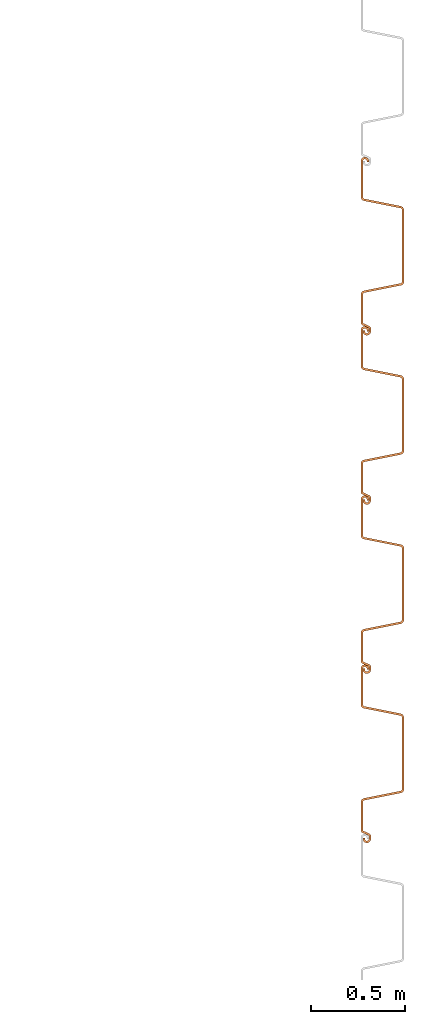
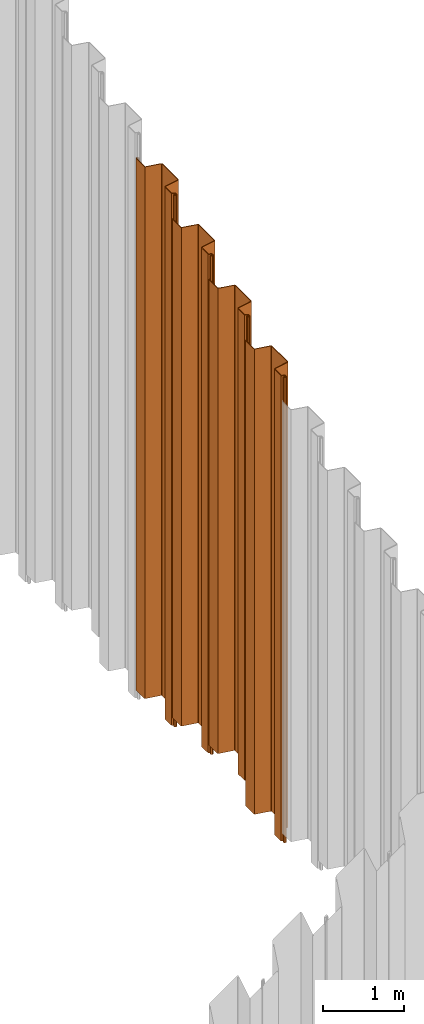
# One storey, part 10 of 12: 4 proxies.
"""IFC2X3 building model written with IfcOpenShell, lengths in millimetres."""

import ifcopenshell
import ifcopenshell.guid

model = None  # the IFC model being written
_history = None  # IfcOwnerHistory: only IFC2X3 demands one
_inside = {}  # id of a spatial element -> (the spatial element, [elements in it])
_under = {}  # id of a project, library or spatial element -> (it, [spatial elements below it])
_declared = {}  # id of a project -> (the project, [libraries it declares])
_typed = {}  # id of a type object -> (the type object, [elements of that type])
_made_of = {}  # id of a material, layer set ... -> (it, [elements and type objects made of it])


def new_model(schema):
    """Start an empty IFC model of exactly this schema.

    Asked for "IFC4X3", IfcOpenShell would pick the latest addendum, in which some entities
    have other attributes; the version numbers below select the first issue.
    IFC2X3 requires an IfcOwnerHistory on every rooted entity: one is made here for all.
    """
    global model, _history
    if schema == "IFC4X3":
        model = ifcopenshell.file(schema_version=(4, 3, 0, 0))
    else:
        model = ifcopenshell.file(schema=schema)
    _inside.clear()
    _under.clear()
    _declared.clear()
    _typed.clear()
    _made_of.clear()
    _history = None
    if model.schema == "IFC2X3":
        org = make("IfcOrganization", Name="unknown")
        user = make(
            "IfcPersonAndOrganization",
            ThePerson=make("IfcPerson", FamilyName="unknown"),
            TheOrganization=org,
        )
        app = make(
            "IfcApplication",
            ApplicationDeveloper=org,
            Version="unknown",
            ApplicationFullName="unknown",
            ApplicationIdentifier="unknown",
        )
        _history = make(
            "IfcOwnerHistory",
            OwningUser=user,
            OwningApplication=app,
            ChangeAction="ADDED",
            CreationDate=0,
        )
    return model


def make(cls, **values):
    """One entity of the class cls with the attributes given. An attribute that is None is left unset."""
    return model.create_entity(
        cls, **{name: value for name, value in values.items() if value is not None}
    )


def entity(cls, *values):
    """Any entity or typed value of the class cls, its attributes in the order of the schema. None: left unset."""
    e = model.create_entity(cls)
    for i, value in enumerate(values):
        if value is not None:
            e[i] = value
    return e


def rooted(cls, **values):
    """An entity with a GlobalId (a new one), such as an element, a storey or a relation."""
    return make(cls, GlobalId=ifcopenshell.guid.new(), OwnerHistory=_history, **values)


def si_unit(unit_type, name, prefix=None):
    """IfcSIUnit, for example si_unit("LENGTHUNIT", "METRE", prefix="MILLI")."""
    return make("IfcSIUnit", UnitType=unit_type, Prefix=prefix, Name=name)


def converted_unit(unit_type, name, factor, base, dimensions=None, offset=None):
    """IfcConversionBasedUnit, such as the inch: factor (a typed value) times the base unit."""
    return make(
        "IfcConversionBasedUnit"
        if offset is None
        else "IfcConversionBasedUnitWithOffset",
        ConversionOffset=offset,
        Dimensions=None
        if dimensions is None
        else entity("IfcDimensionalExponents", *dimensions),
        UnitType=unit_type,
        Name=name,
        ConversionFactor=make(
            "IfcMeasureWithUnit", ValueComponent=factor, UnitComponent=base
        ),
    )


def derived_unit(unit_type, elements):
    """IfcDerivedUnit: a product of units, each with its exponent."""
    return make(
        "IfcDerivedUnit",
        Elements=[
            make("IfcDerivedUnitElement", Unit=unit, Exponent=power)
            for unit, power in elements
        ],
        UnitType=unit_type,
    )


def assignment(units):
    """IfcUnitAssignment: the units of a project."""
    return None if units is None else make("IfcUnitAssignment", Units=units)


def point(xyz):
    """IfcCartesianPoint."""
    return None if xyz is None else make("IfcCartesianPoint", Coordinates=xyz)


def direction(xyz):
    """IfcDirection."""
    return None if xyz is None else make("IfcDirection", DirectionRatios=xyz)


def frame(location, z_axis=None, x_axis=None):
    """IfcAxis2Placement3D, a coordinate frame: its origin and axes. An axis left out is left unset."""
    return make(
        "IfcAxis2Placement3D",
        Location=point(location),
        Axis=direction(z_axis),
        RefDirection=direction(x_axis),
    )


def frame_2d(location, x_axis=None):
    """IfcAxis2Placement2D, a coordinate frame in the plane: its origin and x axis."""
    return make(
        "IfcAxis2Placement2D", Location=point(location), RefDirection=direction(x_axis)
    )


def origin():
    """The frame at (0, 0, 0) with its axes left unset."""
    return frame((0.0, 0.0, 0.0))


def place(relative_to, where):
    """IfcLocalPlacement: puts the frame where relative to a parent placement (None: the world)."""
    return make(
        "IfcLocalPlacement", PlacementRelTo=relative_to, RelativePlacement=where
    )


def context(
    kind, dimensions, precision=None, world=None, true_north=None, identifier=None
):
    """IfcGeometricRepresentationContext, for example the 3D "Model" context."""
    return make(
        "IfcGeometricRepresentationContext",
        ContextIdentifier=identifier,
        ContextType=kind,
        CoordinateSpaceDimension=dimensions,
        Precision=precision,
        WorldCoordinateSystem=world,
        TrueNorth=true_north,
    )


def subcontext(parent, identifier, kind, view, scale=None):
    """IfcGeometricRepresentationSubContext, for example "Body" below "Model"."""
    return make(
        "IfcGeometricRepresentationSubContext",
        ContextIdentifier=identifier,
        ContextType=kind,
        ParentContext=parent,
        TargetScale=scale,
        TargetView=view,
    )


def project(units=None, contexts=None):
    """IfcProject with its units and contexts."""
    return rooted(
        "IfcProject",
        Name="project",
        RepresentationContexts=contexts,
        UnitsInContext=assignment(units),
    )


def spatial(cls, under=None, at=None, **own):
    """A site, building, storey or space (cls), placed at a placement, below another one or the project."""
    s = rooted(cls, ObjectPlacement=at, **own)
    if under is not None:
        _under.setdefault(under.id(), (under, []))[1].append(s)
    return s


def polyline(points):
    """IfcPolyline through the points."""
    return make("IfcPolyline", Points=[point(p) for p in points])


def circle_curve(where, radius):
    """IfcCircle in the frame where."""
    return make("IfcCircle", Position=where, Radius=radius)


def parameter(value):
    """IfcParameterValue: where a trimmed curve begins or ends, as a parameter of its basis curve."""
    return model.create_entity("IfcParameterValue", value)


def trimmed(basis, trim1, trim2, sense, master):
    """IfcTrimmedCurve: the piece of a basis curve between two trims."""
    return make(
        "IfcTrimmedCurve",
        BasisCurve=basis,
        Trim1=trim1,
        Trim2=trim2,
        SenseAgreement=sense,
        MasterRepresentation=master,
    )


def segment(curve, same_sense, transition):
    """IfcCompositeCurveSegment."""
    return make(
        "IfcCompositeCurveSegment",
        Transition=transition,
        SameSense=same_sense,
        ParentCurve=curve,
    )


def composite_curve(segments, self_intersect=None):
    """IfcCompositeCurve: segments joined end to end."""
    return make("IfcCompositeCurve", Segments=segments, SelfIntersect=self_intersect)


def outline(outer, holes=None, kind="AREA"):
    """IfcArbitraryClosedProfileDef: a profile drawn as a closed curve; with holes, ...WithVoids."""
    if holes is None:
        return make("IfcArbitraryClosedProfileDef", ProfileType=kind, OuterCurve=outer)
    return make(
        "IfcArbitraryProfileDefWithVoids",
        ProfileType=kind,
        OuterCurve=outer,
        InnerCurves=holes,
    )


def extrude(swept, where, along, depth):
    """IfcExtrudedAreaSolid: the profile swept, set in the frame where, extruded along a direction by depth."""
    return make(
        "IfcExtrudedAreaSolid",
        SweptArea=swept,
        Position=where,
        ExtrudedDirection=direction(along),
        Depth=depth,
    )


def shape(context_of_items, identifier, shape_type, items):
    """IfcShapeRepresentation: the items that make up one representation, for example the "Body"."""
    return make(
        "IfcShapeRepresentation",
        ContextOfItems=context_of_items,
        RepresentationIdentifier=identifier,
        RepresentationType=shape_type,
        Items=items,
    )


def source(mapping_origin, context_of_items, identifier, shape_type, items):
    """IfcRepresentationMap: a shape defined once, which mapped items show again and again."""
    return make(
        "IfcRepresentationMap",
        MappingOrigin=mapping_origin,
        MappedRepresentation=shape(context_of_items, identifier, shape_type, items),
    )


def transform(
    local_origin,
    x_axis=None,
    y_axis=None,
    z_axis=None,
    scale=None,
    scale2=None,
    scale3=None,
    uniform=True,
):
    """IfcCartesianTransformationOperator3D, or its non-uniform kind. x_axis, y_axis, z_axis: its Axis1, 2, 3."""
    if uniform:
        return make(
            "IfcCartesianTransformationOperator3D",
            Axis1=direction(x_axis),
            Axis2=direction(y_axis),
            LocalOrigin=point(local_origin),
            Scale=scale,
            Axis3=direction(z_axis),
        )
    return make(
        "IfcCartesianTransformationOperator3DnonUniform",
        Axis1=direction(x_axis),
        Axis2=direction(y_axis),
        LocalOrigin=point(local_origin),
        Scale=scale,
        Axis3=direction(z_axis),
        Scale2=scale2,
        Scale3=scale3,
    )


def mapped(mapping_source, mapping_target):
    """IfcMappedItem: shows the shape of a source again, moved by a transform."""
    return make(
        "IfcMappedItem", MappingSource=mapping_source, MappingTarget=mapping_target
    )


def material(Name=None, Category=None):
    """IfcMaterial."""
    return make("IfcMaterial", Name=Name, Category=Category)


def made_of(thing, what):
    """Note that an element or type object is made of a material, layer set ...; save() writes the relation."""
    if what is not None:
        _made_of.setdefault(what.id(), (what, []))[1].append(thing)
    return thing


def type_object(cls, material=None, **own):
    """A type object (cls), such as IfcWallType, which elements share."""
    return made_of(rooted(cls, **own), material)


def type_shapes(of_type, sources):
    """Give a type object the sources (RepresentationMaps) that its elements show as mapped items."""
    of_type.RepresentationMaps = sources


def element(
    cls,
    number,
    at=None,
    inside=None,
    cuts=None,
    type_object=None,
    material=None,
    context=None,
    identifier="Body",
    shape_type=None,
    held_by="IfcProductDefinitionShape",
    body=None,
    shapes=None,
    **own,
):
    """One element of the class cls, such as IfcWall. Its Tag is "e" and its number.

    at: its placement. inside: the storey or other place that contains it. cuts: it is an
    opening in that element (IfcRelVoidsElement). A single representation is given by context,
    identifier, shape_type and body (its items); several are given by shapes. held_by: the class
    of the entity that holds the representations. save() writes the other relations.
    """
    e = rooted(cls, Tag="e%d" % number, ObjectPlacement=at, **own)
    if body is not None:
        shapes = [shape(context, identifier, shape_type, body)]
    if shapes is not None:
        e.Representation = make(held_by, Representations=shapes)
    if inside is not None:
        _inside.setdefault(inside.id(), (inside, []))[1].append(e)
    if cuts is not None:
        rooted(
            "IfcRelVoidsElement", RelatingBuildingElement=cuts, RelatedOpeningElement=e
        )
    if type_object is not None:
        _typed.setdefault(type_object.id(), (type_object, []))[1].append(e)
    return made_of(e, material)


def aggregate(whole, parts):
    """IfcRelAggregates: a whole, such as a stair, and the parts it consists of."""
    return rooted("IfcRelAggregates", RelatingObject=whole, RelatedObjects=parts)


def save(model, path):
    """Write the relations noted so far, then the file.

    IfcRelAggregates (storeys below a building ...), IfcRelContainedInSpatialStructure (elements
    in a storey), IfcRelDefinesByType, IfcRelAssociatesMaterial and IfcRelDeclares: one each for
    every whole, place, type object, material and project.
    """
    for whole, parts in _under.values():
        aggregate(whole, parts)
    for where, things in _inside.values():
        rooted(
            "IfcRelContainedInSpatialStructure",
            RelatedElements=things,
            RelatingStructure=where,
        )
    for kind, things in _typed.values():
        rooted("IfcRelDefinesByType", RelatedObjects=things, RelatingType=kind)
    for what, things in _made_of.values():
        rooted("IfcRelAssociatesMaterial", RelatedObjects=things, RelatingMaterial=what)
    for by, libraries in _declared.values():
        rooted("IfcRelDeclares", RelatingContext=by, RelatedDefinitions=libraries)
    model.write(path)


model = new_model("IFC2X3")

# Units and contexts
model_context = context("Model", 3, precision=0.01, world=origin(), true_north=direction((6.12303176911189e-17, 1.0)))
body_context = subcontext(model_context, "Body", "Model", "MODEL_VIEW")
ifc_project = project(units=[si_unit("LENGTHUNIT", "METRE", prefix="MILLI"), si_unit("AREAUNIT", "SQUARE_METRE"), si_unit("VOLUMEUNIT", "CUBIC_METRE"), converted_unit("PLANEANGLEUNIT", "DEGREE", entity("IfcRatioMeasure", 0.0174532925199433), si_unit("PLANEANGLEUNIT", "RADIAN"), dimensions=[0, 0, 0, 0, 0, 0, 0]), si_unit("MASSUNIT", "GRAM", prefix="KILO"), derived_unit("MASSDENSITYUNIT", [(si_unit("MASSUNIT", "GRAM", prefix="KILO"), 1), (si_unit("LENGTHUNIT", "METRE"), -3)]), derived_unit("MOMENTOFINERTIAUNIT", [(si_unit("LENGTHUNIT", "METRE"), 4)]), si_unit("TIMEUNIT", "SECOND"), si_unit("FREQUENCYUNIT", "HERTZ"), si_unit("THERMODYNAMICTEMPERATUREUNIT", "DEGREE_CELSIUS"), derived_unit("THERMALTRANSMITTANCEUNIT", [(si_unit("MASSUNIT", "GRAM", prefix="KILO"), 1), (si_unit("THERMODYNAMICTEMPERATUREUNIT", "KELVIN"), -1), (si_unit("TIMEUNIT", "SECOND"), -3)]), derived_unit("VOLUMETRICFLOWRATEUNIT", [(si_unit("LENGTHUNIT", "METRE"), 3), (si_unit("TIMEUNIT", "SECOND"), -1)]), si_unit("ELECTRICCURRENTUNIT", "AMPERE"), si_unit("ELECTRICVOLTAGEUNIT", "VOLT"), si_unit("POWERUNIT", "WATT"), si_unit("FORCEUNIT", "NEWTON", prefix="KILO"), si_unit("ILLUMINANCEUNIT", "LUX"), si_unit("LUMINOUSFLUXUNIT", "LUMEN"), si_unit("LUMINOUSINTENSITYUNIT", "CANDELA"), derived_unit("USERDEFINED", [(si_unit("MASSUNIT", "GRAM", prefix="KILO"), -1), (si_unit("LENGTHUNIT", "METRE"), -2), (si_unit("TIMEUNIT", "SECOND"), 3), (si_unit("LUMINOUSFLUXUNIT", "LUMEN"), 1)]), derived_unit("LINEARVELOCITYUNIT", [(si_unit("LENGTHUNIT", "METRE"), 1), (si_unit("TIMEUNIT", "SECOND"), -1)]), si_unit("PRESSUREUNIT", "PASCAL"), derived_unit("USERDEFINED", [(si_unit("LENGTHUNIT", "METRE"), -2), (si_unit("MASSUNIT", "GRAM", prefix="KILO"), 1), (si_unit("TIMEUNIT", "SECOND"), -2)]), derived_unit("LINEARFORCEUNIT", [(si_unit("MASSUNIT", "GRAM", prefix="KILO"), 1), (si_unit("LENGTHUNIT", "METRE"), 1), (si_unit("TIMEUNIT", "SECOND"), -2), (si_unit("LENGTHUNIT", "METRE"), -1)]), derived_unit("PLANARFORCEUNIT", [(si_unit("MASSUNIT", "GRAM", prefix="KILO"), 1), (si_unit("LENGTHUNIT", "METRE"), 1), (si_unit("TIMEUNIT", "SECOND"), -2), (si_unit("LENGTHUNIT", "METRE"), -2)])], contexts=[model_context])

# Site, building, storey
site_placement = place(None, origin())
site = spatial("IfcSite", under=ifc_project, at=site_placement, Name="Default", CompositionType="ELEMENT")
building_placement = place(site_placement, origin())
building = spatial("IfcBuilding", under=site, at=building_placement, CompositionType="ELEMENT")
storey_placement = place(building_placement, frame((0.0, 0.0, 10600.0)))
storey = spatial("IfcBuildingStorey", under=building, at=storey_placement, Name="AP+10.600", CompositionType="ELEMENT", Elevation=10600.0)

# Proxies
ifc_material = material(Name="<Unnamed>")
building_element_proxy_type_1 = type_object("IfcBuildingElementProxyType", Name="鋼矢板10H型:鋼矢板10H型", PredefinedType="NOTDEFINED", material=ifc_material)
shared_shape_1 = source(origin(), body_context, "Body", "SweptSolid", [
    extrude(outline(composite_curve([segment(trimmed(circle_curve(frame_2d((85.3662976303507, 306.644432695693), x_axis=(0.422618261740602, 0.906307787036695)), 13.885714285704), [parameter(24.9999999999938)], [parameter(90.0000000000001)], True, "PARAMETER"), True, "CONTINUOUS"), segment(polyline([(72.7815666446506, 312.512789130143), (9.8129512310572, 177.476157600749)]), True, "CONTINUOUS"), segment(trimmed(circle_curve(frame_2d((29.3891994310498, 168.347603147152), x_axis=(0.422618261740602, 0.906307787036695)), 21.6), [parameter(90.0000000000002)], [parameter(168.69006752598)], True, "PARAMETER"), True, "CONTINUOUS"), segment(polyline([(16.598697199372, 150.941769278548), (175.329723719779, 34.2998683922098)]), True, "CONTINUOUS"), segment(trimmed(circle_curve(frame_2d((168.93447260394, 25.596951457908), x_axis=(0.422618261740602, 0.906307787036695)), 10.7999999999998), [parameter(270.0)], [parameter(348.690067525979)], True, "PARAMETER"), False, "CONTINUOUS"), segment(polyline([(178.722596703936, 21.0326742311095), (18.2974003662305, -323.000269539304)]), True, "CONTINUOUS"), segment(trimmed(circle_curve(frame_2d((8.50927626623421, -318.435992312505), x_axis=(0.422618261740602, 0.906307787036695)), 10.8), [parameter(191.30993247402)], [parameter(269.999999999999)], True, "PARAMETER"), False, "CONTINUOUS"), segment(polyline([(5.95324328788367, -328.929166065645), (-185.429973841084, -282.310113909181)]), True, "CONTINUOUS"), segment(trimmed(circle_curve(frame_2d((-190.542039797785, -303.296461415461), x_axis=(0.422618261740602, 0.906307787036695)), 21.6000000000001), [parameter(11.3099324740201)], [parameter(90.0000000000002)], True, "PARAMETER"), True, "CONTINUOUS"), segment(polyline([(-210.118287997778, -294.167906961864), (-290.330886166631, -466.184378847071)]), True, "CONTINUOUS"), segment(trimmed(circle_curve(frame_2d((-270.754637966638, -475.312933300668), x_axis=(0.422618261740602, 0.906307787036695)), 21.6), [parameter(90.0000000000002)], [parameter(269.999999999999)], True, "PARAMETER"), True, "CONTINUOUS"), segment(polyline([(-251.178389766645, -484.441487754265), (-249.065298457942, -479.909948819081)]), True, "CONTINUOUS"), segment(polyline([(-249.065298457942, -479.909948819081), (-258.853422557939, -475.345671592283)]), True, "CONTINUOUS"), segment(polyline([(-258.853422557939, -475.345671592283), (-260.966513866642, -479.877210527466)]), True, "CONTINUOUS"), segment(trimmed(circle_curve(frame_2d((-270.754637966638, -475.312933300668), x_axis=(0.422618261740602, 0.906307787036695)), 10.8), [parameter(90.0000000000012)], [parameter(270.0)], True, "PARAMETER"), False, "CONTINUOUS"), segment(polyline([(-280.542762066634, -470.748656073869), (-200.330163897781, -298.732184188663)]), True, "CONTINUOUS"), segment(trimmed(circle_curve(frame_2d((-190.542039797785, -303.296461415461), x_axis=(0.422618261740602, 0.906307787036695)), 10.8), [parameter(11.3099324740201)], [parameter(89.9999999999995)], True, "PARAMETER"), False, "CONTINUOUS"), segment(polyline([(-187.986006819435, -292.803287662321), (3.39721030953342, -339.422339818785)]), True, "CONTINUOUS"), segment(trimmed(circle_curve(frame_2d((8.50927626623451, -318.435992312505), x_axis=(0.422618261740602, 0.906307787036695)), 21.6), [parameter(191.30993247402)], [parameter(270.0)], True, "PARAMETER"), True, "CONTINUOUS"), segment(polyline([(28.0855244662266, -327.564546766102), (188.510720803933, 16.4683970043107)]), True, "CONTINUOUS"), segment(trimmed(circle_curve(frame_2d((168.93447260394, 25.5969514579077), x_axis=(0.422618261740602, 0.906307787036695)), 21.6), [parameter(270.0)], [parameter(348.69006752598)], True, "PARAMETER"), True, "CONTINUOUS"), segment(polyline([(181.724974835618, 43.0027853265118), (22.9939483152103, 159.644686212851)]), True, "CONTINUOUS"), segment(trimmed(circle_curve(frame_2d((29.3891994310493, 168.347603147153), x_axis=(0.422618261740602, 0.906307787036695)), 10.7999999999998), [parameter(89.9999999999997)], [parameter(168.690067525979)], True, "PARAMETER"), False, "CONTINUOUS"), segment(polyline([(19.6010753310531, 172.911880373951), (82.5696907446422, 307.948511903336)]), True, "CONTINUOUS"), segment(trimmed(circle_curve(frame_2d((85.3662976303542, 306.64443269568), x_axis=(0.422618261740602, 0.906307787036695)), 3.08571428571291), [parameter(25.0000000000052)], [parameter(90.0000000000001)], True, "PARAMETER"), False, "CONTINUOUS"), segment(polyline([(85.3662976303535, 309.730146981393), (122.220231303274, 309.730146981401)]), True, "CONTINUOUS"), segment(trimmed(circle_curve(frame_2d((122.220231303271, 323.615861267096), x_axis=(0.422618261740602, 0.906307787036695)), 13.8857142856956), [parameter(205.000000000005)], [parameter(270.0)], True, "PARAMETER"), True, "CONTINUOUS"), segment(polyline([(134.804962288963, 317.747504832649), (141.079261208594, 331.202782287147)]), True, "CONTINUOUS"), segment(trimmed(circle_curve(frame_2d((121.503013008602, 340.331336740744), x_axis=(0.422618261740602, 0.906307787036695)), 21.6), [parameter(270.0)], [parameter(90.0000000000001)], True, "PARAMETER"), True, "CONTINUOUS"), segment(polyline([(101.926764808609, 349.459891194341), (99.8136734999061, 344.928352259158)]), True, "CONTINUOUS"), segment(polyline([(99.8136734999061, 344.928352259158), (109.601797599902, 340.364075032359)]), True, "CONTINUOUS"), segment(polyline([(109.601797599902, 340.364075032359), (111.714888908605, 344.895613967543)]), True, "CONTINUOUS"), segment(trimmed(circle_curve(frame_2d((121.503013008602, 340.331336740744), x_axis=(0.422618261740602, 0.906307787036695)), 10.8), [parameter(270.0)], [parameter(89.9999999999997)], True, "PARAMETER"), False, "CONTINUOUS"), segment(polyline([(131.291137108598, 335.767059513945), (125.01683818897, 322.311782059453)]), True, "CONTINUOUS"), segment(trimmed(circle_curve(frame_2d((122.220231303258, 323.615861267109), x_axis=(0.422618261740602, 0.906307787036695)), 3.08571428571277), [parameter(204.999999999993)], [parameter(270.0)], True, "PARAMETER"), False, "CONTINUOUS"), segment(polyline([(122.220231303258, 320.530146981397), (85.3662976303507, 320.530146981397)]), True, "CONTINUOUS")], self_intersect=False)), frame((95.205667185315, -48.8888888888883, -7000.0), z_axis=(0.0, 0.0, -1.0), x_axis=(0.4226182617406, 0.906307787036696, 0.0)), (0.0, 0.0, -1.0), 7000.0),
])
type_shapes(building_element_proxy_type_1, [shared_shape_1])
for number, where, z_axis, x_axis in (
    (1, (89754.0, -8495.0, 2222.55268431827), (0.0, 0.0, 1.0), (0.0, -1.0, 0.0)),
    (2, (89754.0, -9395.0, 1854.65268431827), (0.0, 0.0, 1.0), (0.0, -1.0, 0.0)),
):
    element("IfcBuildingElementProxy", number, at=place(storey_placement, frame(where, z_axis=z_axis, x_axis=x_axis)), inside=storey, type_object=building_element_proxy_type_1, material=ifc_material, Name="鋼矢板10H型:鋼矢板10H型", ObjectType="鋼矢板10H型:鋼矢板10H型", context=body_context, shape_type="MappedRepresentation", body=[
        mapped(shared_shape_1, transform((0.0, 0.0, 0.0), scale=1.0)),
    ])
building_element_proxy_type_2 = type_object("IfcBuildingElementProxyType", Name="鋼矢板10H型:鋼矢板10H型", PredefinedType="NOTDEFINED", material=ifc_material)
shared_shape_2 = source(origin(), body_context, "Body", "SweptSolid", [
    extrude(outline(composite_curve([segment(trimmed(circle_curve(frame_2d((85.3662976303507, 306.644432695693), x_axis=(0.422618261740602, 0.906307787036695)), 13.885714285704), [parameter(24.9999999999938)], [parameter(90.0000000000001)], True, "PARAMETER"), True, "CONTINUOUS"), segment(polyline([(72.7815666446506, 312.512789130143), (9.8129512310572, 177.476157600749)]), True, "CONTINUOUS"), segment(trimmed(circle_curve(frame_2d((29.3891994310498, 168.347603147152), x_axis=(0.422618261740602, 0.906307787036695)), 21.6), [parameter(90.0000000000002)], [parameter(168.69006752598)], True, "PARAMETER"), True, "CONTINUOUS"), segment(polyline([(16.598697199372, 150.941769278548), (175.329723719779, 34.2998683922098)]), True, "CONTINUOUS"), segment(trimmed(circle_curve(frame_2d((168.93447260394, 25.596951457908), x_axis=(0.422618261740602, 0.906307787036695)), 10.7999999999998), [parameter(270.0)], [parameter(348.690067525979)], True, "PARAMETER"), False, "CONTINUOUS"), segment(polyline([(178.722596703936, 21.0326742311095), (18.2974003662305, -323.000269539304)]), True, "CONTINUOUS"), segment(trimmed(circle_curve(frame_2d((8.50927626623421, -318.435992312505), x_axis=(0.422618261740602, 0.906307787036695)), 10.8), [parameter(191.30993247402)], [parameter(269.999999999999)], True, "PARAMETER"), False, "CONTINUOUS"), segment(polyline([(5.95324328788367, -328.929166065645), (-185.429973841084, -282.310113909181)]), True, "CONTINUOUS"), segment(trimmed(circle_curve(frame_2d((-190.542039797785, -303.296461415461), x_axis=(0.422618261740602, 0.906307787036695)), 21.6000000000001), [parameter(11.3099324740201)], [parameter(90.0000000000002)], True, "PARAMETER"), True, "CONTINUOUS"), segment(polyline([(-210.118287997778, -294.167906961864), (-290.330886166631, -466.184378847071)]), True, "CONTINUOUS"), segment(trimmed(circle_curve(frame_2d((-270.754637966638, -475.312933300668), x_axis=(0.422618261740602, 0.906307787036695)), 21.6), [parameter(90.0000000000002)], [parameter(269.999999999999)], True, "PARAMETER"), True, "CONTINUOUS"), segment(polyline([(-251.178389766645, -484.441487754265), (-249.065298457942, -479.909948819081)]), True, "CONTINUOUS"), segment(polyline([(-249.065298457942, -479.909948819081), (-258.853422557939, -475.345671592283)]), True, "CONTINUOUS"), segment(polyline([(-258.853422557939, -475.345671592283), (-260.966513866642, -479.877210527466)]), True, "CONTINUOUS"), segment(trimmed(circle_curve(frame_2d((-270.754637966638, -475.312933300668), x_axis=(0.422618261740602, 0.906307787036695)), 10.8), [parameter(90.0000000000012)], [parameter(270.0)], True, "PARAMETER"), False, "CONTINUOUS"), segment(polyline([(-280.542762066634, -470.748656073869), (-200.330163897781, -298.732184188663)]), True, "CONTINUOUS"), segment(trimmed(circle_curve(frame_2d((-190.542039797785, -303.296461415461), x_axis=(0.422618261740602, 0.906307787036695)), 10.8), [parameter(11.3099324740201)], [parameter(89.9999999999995)], True, "PARAMETER"), False, "CONTINUOUS"), segment(polyline([(-187.986006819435, -292.803287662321), (3.39721030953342, -339.422339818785)]), True, "CONTINUOUS"), segment(trimmed(circle_curve(frame_2d((8.50927626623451, -318.435992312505), x_axis=(0.422618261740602, 0.906307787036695)), 21.6), [parameter(191.30993247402)], [parameter(270.0)], True, "PARAMETER"), True, "CONTINUOUS"), segment(polyline([(28.0855244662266, -327.564546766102), (188.510720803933, 16.4683970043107)]), True, "CONTINUOUS"), segment(trimmed(circle_curve(frame_2d((168.93447260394, 25.5969514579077), x_axis=(0.422618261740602, 0.906307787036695)), 21.6), [parameter(270.0)], [parameter(348.69006752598)], True, "PARAMETER"), True, "CONTINUOUS"), segment(polyline([(181.724974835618, 43.0027853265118), (22.9939483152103, 159.644686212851)]), True, "CONTINUOUS"), segment(trimmed(circle_curve(frame_2d((29.3891994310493, 168.347603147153), x_axis=(0.422618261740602, 0.906307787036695)), 10.7999999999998), [parameter(89.9999999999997)], [parameter(168.690067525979)], True, "PARAMETER"), False, "CONTINUOUS"), segment(polyline([(19.6010753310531, 172.911880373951), (82.5696907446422, 307.948511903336)]), True, "CONTINUOUS"), segment(trimmed(circle_curve(frame_2d((85.3662976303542, 306.64443269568), x_axis=(0.422618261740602, 0.906307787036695)), 3.08571428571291), [parameter(25.0000000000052)], [parameter(90.0000000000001)], True, "PARAMETER"), False, "CONTINUOUS"), segment(polyline([(85.3662976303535, 309.730146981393), (122.220231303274, 309.730146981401)]), True, "CONTINUOUS"), segment(trimmed(circle_curve(frame_2d((122.220231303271, 323.615861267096), x_axis=(0.422618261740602, 0.906307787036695)), 13.8857142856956), [parameter(205.000000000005)], [parameter(270.0)], True, "PARAMETER"), True, "CONTINUOUS"), segment(polyline([(134.804962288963, 317.747504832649), (141.079261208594, 331.202782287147)]), True, "CONTINUOUS"), segment(trimmed(circle_curve(frame_2d((121.503013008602, 340.331336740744), x_axis=(0.422618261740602, 0.906307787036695)), 21.6), [parameter(270.0)], [parameter(90.0000000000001)], True, "PARAMETER"), True, "CONTINUOUS"), segment(polyline([(101.926764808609, 349.459891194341), (99.8136734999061, 344.928352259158)]), True, "CONTINUOUS"), segment(polyline([(99.8136734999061, 344.928352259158), (109.601797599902, 340.364075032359)]), True, "CONTINUOUS"), segment(polyline([(109.601797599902, 340.364075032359), (111.714888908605, 344.895613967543)]), True, "CONTINUOUS"), segment(trimmed(circle_curve(frame_2d((121.503013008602, 340.331336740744), x_axis=(0.422618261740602, 0.906307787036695)), 10.8), [parameter(270.0)], [parameter(89.9999999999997)], True, "PARAMETER"), False, "CONTINUOUS"), segment(polyline([(131.291137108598, 335.767059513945), (125.01683818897, 322.311782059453)]), True, "CONTINUOUS"), segment(trimmed(circle_curve(frame_2d((122.220231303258, 323.615861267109), x_axis=(0.422618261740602, 0.906307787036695)), 3.08571428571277), [parameter(204.999999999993)], [parameter(270.0)], True, "PARAMETER"), False, "CONTINUOUS"), segment(polyline([(122.220231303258, 320.530146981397), (85.3662976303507, 320.530146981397)]), True, "CONTINUOUS")], self_intersect=False)), frame((95.205667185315, -48.8888888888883, -7500.0), z_axis=(0.0, 0.0, -1.0), x_axis=(0.4226182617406, 0.906307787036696, 0.0)), (0.0, 0.0, -1.0), 7500.0),
])
type_shapes(building_element_proxy_type_2, [shared_shape_2])
proxy_1_placement = place(storey_placement, frame((89754.0, -7595.0, 2590.45268431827), z_axis=(0.0, 0.0, 1.0), x_axis=(0.0, -1.0, 0.0)))
element("IfcBuildingElementProxy", 3, at=proxy_1_placement, inside=storey, type_object=building_element_proxy_type_2, material=ifc_material, Name="鋼矢板10H型:鋼矢板10H型", ObjectType="鋼矢板10H型:鋼矢板10H型", context=body_context, shape_type="MappedRepresentation", body=[
    mapped(shared_shape_2, transform((0.0, 0.0, 0.0), scale=1.0)),
])
building_element_proxy_type_3 = type_object("IfcBuildingElementProxyType", Name="鋼矢板10H型:鋼矢板10H型", PredefinedType="NOTDEFINED", material=ifc_material)
shared_shape_3 = source(origin(), body_context, "Body", "SweptSolid", [
    extrude(outline(composite_curve([segment(trimmed(circle_curve(frame_2d((85.3662976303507, 306.644432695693), x_axis=(0.422618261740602, 0.906307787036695)), 13.885714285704), [parameter(24.9999999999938)], [parameter(90.0000000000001)], True, "PARAMETER"), True, "CONTINUOUS"), segment(polyline([(72.7815666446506, 312.512789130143), (9.8129512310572, 177.476157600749)]), True, "CONTINUOUS"), segment(trimmed(circle_curve(frame_2d((29.3891994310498, 168.347603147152), x_axis=(0.422618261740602, 0.906307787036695)), 21.6), [parameter(90.0000000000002)], [parameter(168.69006752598)], True, "PARAMETER"), True, "CONTINUOUS"), segment(polyline([(16.598697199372, 150.941769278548), (175.329723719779, 34.2998683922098)]), True, "CONTINUOUS"), segment(trimmed(circle_curve(frame_2d((168.93447260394, 25.596951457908), x_axis=(0.422618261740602, 0.906307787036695)), 10.7999999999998), [parameter(270.0)], [parameter(348.690067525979)], True, "PARAMETER"), False, "CONTINUOUS"), segment(polyline([(178.722596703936, 21.0326742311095), (18.2974003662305, -323.000269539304)]), True, "CONTINUOUS"), segment(trimmed(circle_curve(frame_2d((8.50927626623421, -318.435992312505), x_axis=(0.422618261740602, 0.906307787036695)), 10.8), [parameter(191.30993247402)], [parameter(269.999999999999)], True, "PARAMETER"), False, "CONTINUOUS"), segment(polyline([(5.95324328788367, -328.929166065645), (-185.429973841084, -282.310113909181)]), True, "CONTINUOUS"), segment(trimmed(circle_curve(frame_2d((-190.542039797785, -303.296461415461), x_axis=(0.422618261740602, 0.906307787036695)), 21.6000000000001), [parameter(11.3099324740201)], [parameter(90.0000000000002)], True, "PARAMETER"), True, "CONTINUOUS"), segment(polyline([(-210.118287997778, -294.167906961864), (-290.330886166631, -466.184378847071)]), True, "CONTINUOUS"), segment(trimmed(circle_curve(frame_2d((-270.754637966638, -475.312933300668), x_axis=(0.422618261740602, 0.906307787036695)), 21.6), [parameter(90.0000000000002)], [parameter(269.999999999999)], True, "PARAMETER"), True, "CONTINUOUS"), segment(polyline([(-251.178389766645, -484.441487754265), (-249.065298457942, -479.909948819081)]), True, "CONTINUOUS"), segment(polyline([(-249.065298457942, -479.909948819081), (-258.853422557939, -475.345671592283)]), True, "CONTINUOUS"), segment(polyline([(-258.853422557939, -475.345671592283), (-260.966513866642, -479.877210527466)]), True, "CONTINUOUS"), segment(trimmed(circle_curve(frame_2d((-270.754637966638, -475.312933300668), x_axis=(0.422618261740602, 0.906307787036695)), 10.8), [parameter(90.0000000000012)], [parameter(270.0)], True, "PARAMETER"), False, "CONTINUOUS"), segment(polyline([(-280.542762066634, -470.748656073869), (-200.330163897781, -298.732184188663)]), True, "CONTINUOUS"), segment(trimmed(circle_curve(frame_2d((-190.542039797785, -303.296461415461), x_axis=(0.422618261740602, 0.906307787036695)), 10.8), [parameter(11.3099324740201)], [parameter(89.9999999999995)], True, "PARAMETER"), False, "CONTINUOUS"), segment(polyline([(-187.986006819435, -292.803287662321), (3.39721030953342, -339.422339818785)]), True, "CONTINUOUS"), segment(trimmed(circle_curve(frame_2d((8.50927626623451, -318.435992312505), x_axis=(0.422618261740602, 0.906307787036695)), 21.6), [parameter(191.30993247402)], [parameter(270.0)], True, "PARAMETER"), True, "CONTINUOUS"), segment(polyline([(28.0855244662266, -327.564546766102), (188.510720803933, 16.4683970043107)]), True, "CONTINUOUS"), segment(trimmed(circle_curve(frame_2d((168.93447260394, 25.5969514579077), x_axis=(0.422618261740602, 0.906307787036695)), 21.6), [parameter(270.0)], [parameter(348.69006752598)], True, "PARAMETER"), True, "CONTINUOUS"), segment(polyline([(181.724974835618, 43.0027853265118), (22.9939483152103, 159.644686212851)]), True, "CONTINUOUS"), segment(trimmed(circle_curve(frame_2d((29.3891994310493, 168.347603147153), x_axis=(0.422618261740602, 0.906307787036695)), 10.7999999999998), [parameter(89.9999999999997)], [parameter(168.690067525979)], True, "PARAMETER"), False, "CONTINUOUS"), segment(polyline([(19.6010753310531, 172.911880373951), (82.5696907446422, 307.948511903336)]), True, "CONTINUOUS"), segment(trimmed(circle_curve(frame_2d((85.3662976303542, 306.64443269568), x_axis=(0.422618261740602, 0.906307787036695)), 3.08571428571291), [parameter(25.0000000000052)], [parameter(90.0000000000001)], True, "PARAMETER"), False, "CONTINUOUS"), segment(polyline([(85.3662976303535, 309.730146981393), (122.220231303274, 309.730146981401)]), True, "CONTINUOUS"), segment(trimmed(circle_curve(frame_2d((122.220231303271, 323.615861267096), x_axis=(0.422618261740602, 0.906307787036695)), 13.8857142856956), [parameter(205.000000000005)], [parameter(270.0)], True, "PARAMETER"), True, "CONTINUOUS"), segment(polyline([(134.804962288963, 317.747504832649), (141.079261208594, 331.202782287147)]), True, "CONTINUOUS"), segment(trimmed(circle_curve(frame_2d((121.503013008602, 340.331336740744), x_axis=(0.422618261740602, 0.906307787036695)), 21.6), [parameter(270.0)], [parameter(90.0000000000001)], True, "PARAMETER"), True, "CONTINUOUS"), segment(polyline([(101.926764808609, 349.459891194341), (99.8136734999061, 344.928352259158)]), True, "CONTINUOUS"), segment(polyline([(99.8136734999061, 344.928352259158), (109.601797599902, 340.364075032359)]), True, "CONTINUOUS"), segment(polyline([(109.601797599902, 340.364075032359), (111.714888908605, 344.895613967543)]), True, "CONTINUOUS"), segment(trimmed(circle_curve(frame_2d((121.503013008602, 340.331336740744), x_axis=(0.422618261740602, 0.906307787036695)), 10.8), [parameter(270.0)], [parameter(89.9999999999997)], True, "PARAMETER"), False, "CONTINUOUS"), segment(polyline([(131.291137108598, 335.767059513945), (125.01683818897, 322.311782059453)]), True, "CONTINUOUS"), segment(trimmed(circle_curve(frame_2d((122.220231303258, 323.615861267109), x_axis=(0.422618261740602, 0.906307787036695)), 3.08571428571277), [parameter(204.999999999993)], [parameter(270.0)], True, "PARAMETER"), False, "CONTINUOUS"), segment(polyline([(122.220231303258, 320.530146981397), (85.3662976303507, 320.530146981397)]), True, "CONTINUOUS")], self_intersect=False)), frame((95.205667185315, -48.8888888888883, -8000.0), z_axis=(0.0, 0.0, -1.0), x_axis=(0.4226182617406, 0.906307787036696, 0.0)), (0.0, 0.0, -1.0), 8000.0),
])
type_shapes(building_element_proxy_type_3, [shared_shape_3])
proxy_2_placement = place(storey_placement, frame((89754.0, -6695.0, 2958.35268431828), z_axis=(0.0, 0.0, 1.0), x_axis=(0.0, -1.0, 0.0)))
element("IfcBuildingElementProxy", 4, at=proxy_2_placement, inside=storey, type_object=building_element_proxy_type_3, material=ifc_material, Name="鋼矢板10H型:鋼矢板10H型", ObjectType="鋼矢板10H型:鋼矢板10H型", context=body_context, shape_type="MappedRepresentation", body=[
    mapped(shared_shape_3, transform((0.0, 0.0, 0.0), scale=1.0)),
])

save(model, "model.ifc")
